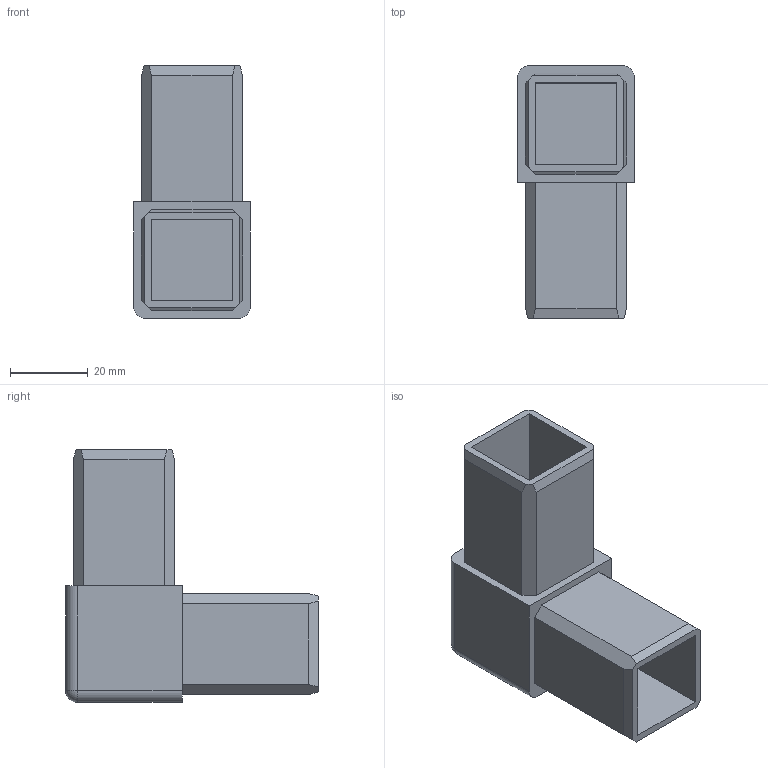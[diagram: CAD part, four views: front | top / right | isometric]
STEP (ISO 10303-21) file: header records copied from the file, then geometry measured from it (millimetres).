
FILE_DESCRIPTION (( 'STEP AP214' ), '1' );
FILE_NAME ('L15812.step', '2024-12-03T16:19:07', ( '' ), ( '' ), 'SwSTEP 2.0', 'SolidWorks 2023', '' );
FILE_SCHEMA (( 'AUTOMOTIVE_DESIGN' ));
Length unit declared in the file: millimetre
Products named in the file (1): L15812
Bounding box: 30 x 65 x 65 mm (x, y, z)
Volume: 28850.6 mm3; surface area: 19462.7 mm2
Topology: 1 solids, 1 shells, 45 faces, 119 edges, 76 vertices
Faces by surface type: plane 38, cylinder 5, sphere 2
Entity records: 1380 total; most frequent: CARTESIAN_POINT 239, ORIENTED_EDGE 234, DIRECTION 219, EDGE_CURVE 117, LINE 107, VECTOR 107, VERTEX_POINT 76, AXIS2_PLACEMENT_3D 56
